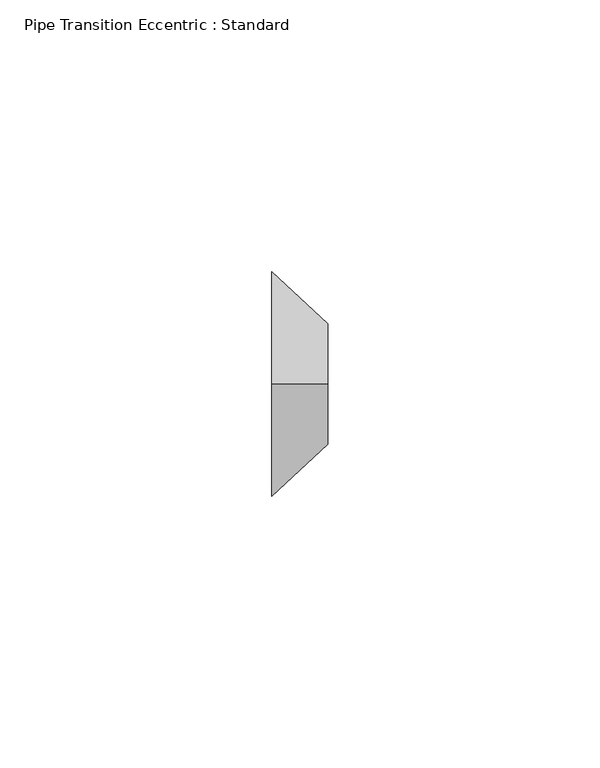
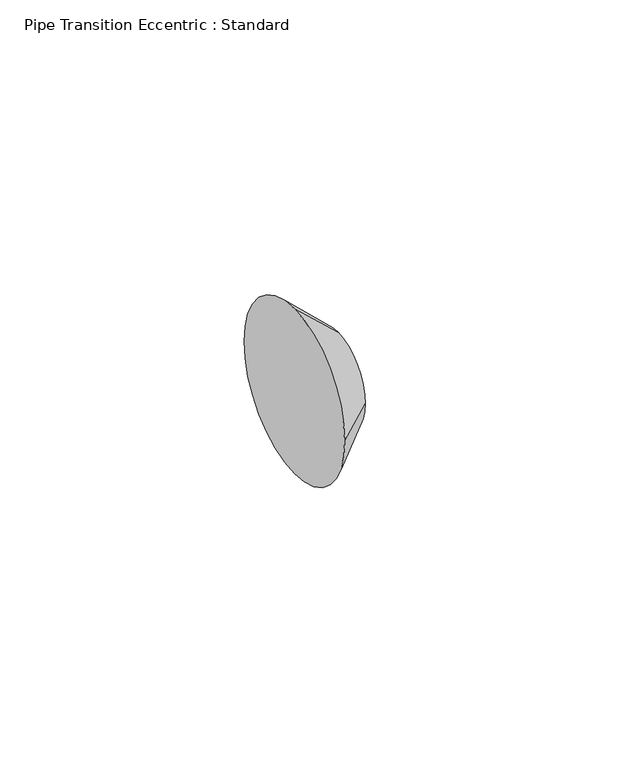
"""IFC4 building model written with IfcOpenShell, lengths in millimetres: pipe fitting geometry, Pipe Transition Eccentric : Standard."""

from ifc_helpers import new_model, si_unit, frame, origin, place, context, project, spatial, polyline, circle_curve, source, transform, mapped, element, save
from ifc_brep_helpers import plane_surface, revolved_surface, advanced_brep


def pipe_transition_eccentric_standard_151601c4(model_context):
    return source(origin(), model_context, "Body", "AdvancedBrep", [
        advanced_brep(
        [(10.31875, 0.0, 11.1125), (10.31875, -11.1125, 0.0), (10.31875, 0.0, -11.1125), (10.31875, 11.1125, 0.0), (0.0, 0.0, 20.6375), (0.0, 20.6375, 0.0), (0.0, 0.0, -20.6375), (0.0, -20.6375, 0.0)],
        [
            (0, 1, circle_curve(frame((10.31875, 0.0, 0.0), z_axis=(1.0, 0.0, 0.0), x_axis=(0.0, -1.0, 0.0)), 11.1125)),
            (1, 2, circle_curve(frame((10.31875, 0.0, 0.0), z_axis=(1.0, 0.0, 0.0), x_axis=(0.0, 0.0, -1.0)), 11.1125)),
            (2, 3, circle_curve(frame((10.31875, 0.0, 0.0), z_axis=(1.0, 0.0, 0.0), x_axis=(0.0, 1.0, 0.0)), 11.1125)),
            (3, 0, circle_curve(frame((10.31875, 0.0, 0.0), z_axis=(1.0, 0.0, 0.0), x_axis=(0.0, 0.0, 1.0)), 11.1125)),
            (4, 5, circle_curve(frame((0.0, 0.0, 0.0), z_axis=(-1.0, 0.0, 0.0), x_axis=(0.0, 0.0, 1.0)), 20.6375)),
            (5, 6, circle_curve(frame((0.0, 0.0, 0.0), z_axis=(-1.0, 0.0, 0.0), x_axis=(0.0, 1.0, 0.0)), 20.6375)),
            (6, 7, circle_curve(frame((0.0, 0.0, 0.0), z_axis=(-1.0, 0.0, 0.0), x_axis=(0.0, 0.0, -1.0)), 20.6375)),
            (7, 4, circle_curve(frame((0.0, 0.0, 0.0), z_axis=(-1.0, 0.0, 0.0), x_axis=(0.0, -1.0, 0.0)), 20.6375)),
            (4, 0),
            (3, 5),
            (2, 6),
            (1, 7),
        ],
        [
            plane_surface(frame((10.31875, 0.0, 0.0), z_axis=(1.0, 0.0, 0.0), x_axis=(0.0, 1.0, 0.0))),
            plane_surface(frame((0.0, 0.0, 0.0), z_axis=(-1.0, 0.0, 0.0), x_axis=(0.0, 1.0, 0.0))),
            revolved_surface(polyline([(10.31875, 0.0, 11.112500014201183), (0.0, 0.0, 20.6375)]), (22.3572917, 0.0, 0.0), (-1.0, 0.0, 0.0)),
            revolved_surface(polyline([(10.31875, 11.112500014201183, 0.0), (0.0, 20.6375, 0.0)]), (22.3572917, 0.0, 0.0), (-1.0, 0.0, 0.0)),
            revolved_surface(polyline([(10.31875, 0.0, -11.112500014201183), (0.0, 0.0, -20.6375)]), (22.3572917, 0.0, 0.0), (-1.0, 0.0, 0.0)),
            revolved_surface(polyline([(10.31875, -11.112500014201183, 0.0), (0.0, -20.6375, 0.0)]), (22.3572917, 0.0, 0.0), (-1.0, 0.0, 0.0)),
        ],
        [
            (0, [[1, 2, 3, 4]]),
            (1, [[5, 6, 7, 8]]),
            (2, [[9, -4, 10, -5]]),
            (3, [[-10, -3, 11, -6]]),
            (4, [[-11, -2, 12, -7]]),
            (5, [[-12, -1, -9, -8]]),
        ],
    ),
        advanced_brep(
        [(10.31875, 0.0, 11.1125), (10.31875, -11.1125, 0.0), (10.31875, 0.0, -11.1125), (10.31875, 11.1125, 0.0), (0.0, 0.0, 20.6375), (0.0, 20.6375, 0.0), (0.0, 0.0, -20.6375), (0.0, -20.6375, 0.0)],
        [
            (0, 1, circle_curve(frame((10.31875, 0.0, 0.0), z_axis=(1.0, 0.0, 0.0), x_axis=(0.0, -1.0, 0.0)), 11.1125)),
            (1, 2, circle_curve(frame((10.31875, 0.0, 0.0), z_axis=(1.0, 0.0, -1.2984464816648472e-12), x_axis=(-1.298489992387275e-12, 0.0, -1.0)), 11.1125)),
            (2, 3, circle_curve(frame((10.31875, 0.0, 0.0), z_axis=(1.0, 0.0, 0.0), x_axis=(0.0, 1.0, 0.0)), 11.1125)),
            (3, 0, circle_curve(frame((10.31875, 0.0, 0.0), z_axis=(1.0, 0.0, 0.0), x_axis=(0.0, 0.0, 1.0)), 11.1125)),
            (4, 5, circle_curve(frame((0.0, 0.0, 0.0), z_axis=(-1.0, 0.0, 0.0), x_axis=(0.0, 0.0, 1.0)), 20.6375)),
            (5, 6, circle_curve(frame((0.0, 0.0, 0.0), z_axis=(-1.0, 0.0, 0.0), x_axis=(0.0, 1.0, 0.0)), 20.6375)),
            (6, 7, circle_curve(frame((0.0, 0.0, 0.0), z_axis=(-1.0, 0.0, 1.2984464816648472e-12), x_axis=(-1.298489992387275e-12, 0.0, -1.0)), 20.6375)),
            (7, 4, circle_curve(frame((0.0, 0.0, 0.0), z_axis=(-1.0, 0.0, 0.0), x_axis=(0.0, -1.0, 0.0)), 20.6375)),
            (4, 0),
            (3, 5),
            (2, 6),
            (1, 7),
        ],
        [
            plane_surface(frame((10.31875, 0.0, 0.0), z_axis=(1.0, 0.0, 0.0), x_axis=(0.0, 1.0, 0.0))),
            plane_surface(frame((0.0, 0.0, 0.0), z_axis=(-1.0, 0.0, 0.0), x_axis=(0.0, 1.0, 0.0))),
            revolved_surface(polyline([(10.31875, 0.0, 11.112500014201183), (0.0, 0.0, 20.6375)]), (22.3572917, 0.0, 0.0), (-1.0, 0.0, 0.0)),
            revolved_surface(polyline([(10.31875, 11.112500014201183, 0.0), (0.0, 20.6375, 0.0)]), (22.3572917, 0.0, 0.0), (-1.0, 0.0, 0.0)),
            revolved_surface(polyline([(10.31875, 0.0, -11.112500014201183), (-2.679811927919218e-11, 0.0, -20.637500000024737)]), (22.3572917, 0.0, 0.0), (-1.0, 0.0, 1.2984464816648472e-12)),
            revolved_surface(polyline([(10.31875, -11.112500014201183, 0.0), (0.0, -20.6375, 0.0)]), (22.3572917, 0.0, 0.0), (-1.0, 0.0, 0.0)),
        ],
        [
            (0, [[1, 2, 3, 4]]),
            (1, [[5, 6, 7, 8]]),
            (2, [[9, -4, 10, -5]]),
            (3, [[-10, -3, 11, -6]]),
            (4, [[-11, -2, 12, -7]]),
            (5, [[-12, -1, -9, -8]]),
        ],
    ),
    ])


if __name__ == "__main__":
    model = new_model("IFC4")
    model_context = context("Model", 3, world=origin())
    ifc_project = project(units=[si_unit("LENGTHUNIT", "METRE", prefix="MILLI")], contexts=[model_context])
    site = spatial("IfcSite", under=ifc_project)
    building = spatial("IfcBuilding", under=site)
    placement = place(None, origin())
    pipe_transition_eccentric_standard_shape = pipe_transition_eccentric_standard_151601c4(model_context)
    element("IfcPipeFitting", 1, ObjectType="Pipe Transition Eccentric : Standard", at=placement, inside=building, context=model_context, shape_type="MappedRepresentation", body=[
        mapped(pipe_transition_eccentric_standard_shape, transform((0.0, 0.0, 0.0), x_axis=(1.0, 0.0, 0.0), y_axis=(0.0, 1.0, 0.0), z_axis=(0.0, 0.0, 1.0))),
    ])
    save(model, "model.ifc")
